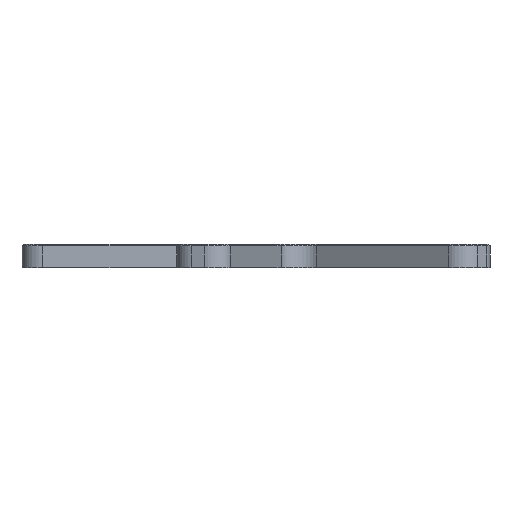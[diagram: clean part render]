
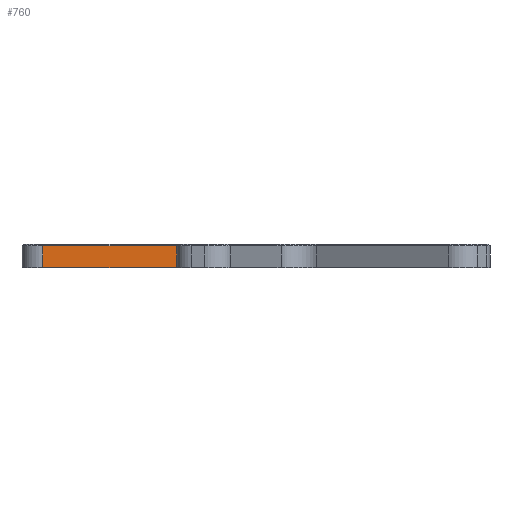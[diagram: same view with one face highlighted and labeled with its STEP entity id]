
A CAD part, left-side view. The second image highlights one B-rep face of the part: STEP entity #760.
In plain terms, the highlighted planar face has unit normal (-1, 0, 0).
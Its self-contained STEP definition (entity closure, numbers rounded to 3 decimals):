
#551 = DIRECTION ( 'NONE',  ( 1., 0., 0. ) ) ;
#607 = DIRECTION ( 'NONE',  ( 0., 0., -1. ) ) ;
#619 = CARTESIAN_POINT ( 'NONE',  ( -12., 101., 10. ) ) ;
#624 = VECTOR ( 'NONE', #8220, 1000. ) ;
#658 = ORIENTED_EDGE ( 'NONE', *, *, #8106, .T. ) ;
#760 = ADVANCED_FACE ( 'NONE', ( #3482 ), #9577, .F. ) ;
#1236 = CARTESIAN_POINT ( 'NONE',  ( -12., 101., 9.5 ) ) ;
#1275 = AXIS2_PLACEMENT_3D ( 'NONE', #619, #551, #607 ) ;
#1615 = ORIENTED_EDGE ( 'NONE', *, *, #7872, .T. ) ;
#1783 = ORIENTED_EDGE ( 'NONE', *, *, #5308, .T. ) ;
#1856 = DIRECTION ( 'NONE',  ( 0., 1., 0. ) ) ;
#2363 = CARTESIAN_POINT ( 'NONE',  ( -12., 101., 0. ) ) ;
#2633 = VERTEX_POINT ( 'NONE', #4049 ) ;
#3159 = EDGE_CURVE ( 'NONE', #2633, #7239, #9100, .T. ) ;
#3206 = CARTESIAN_POINT ( 'NONE',  ( -12., 101., 9.5 ) ) ;
#3256 = EDGE_LOOP ( 'NONE', ( #7805, #1783, #658, #1615 ) ) ;
#3482 = FACE_OUTER_BOUND ( 'NONE', #3256, .T. ) ;
#4049 = CARTESIAN_POINT ( 'NONE',  ( -12., 30.28, 9.5 ) ) ;
#4188 = LINE ( 'NONE', #8244, #624 ) ;
#4252 = VECTOR ( 'NONE', #6429, 1000. ) ;
#5308 = EDGE_CURVE ( 'NONE', #2633, #8815, #8052, .T. ) ;
#6388 = VERTEX_POINT ( 'NONE', #2363 ) ;
#6429 = DIRECTION ( 'NONE',  ( 0., 0., -1. ) ) ;
#6897 = DIRECTION ( 'NONE',  ( 0., 0., -1. ) ) ;
#7041 = CARTESIAN_POINT ( 'NONE',  ( -12., 101., 10. ) ) ;
#7236 = CARTESIAN_POINT ( 'NONE',  ( -12., 30.28, 10. ) ) ;
#7239 = VERTEX_POINT ( 'NONE', #8503 ) ;
#7805 = ORIENTED_EDGE ( 'NONE', *, *, #3159, .F. ) ;
#7872 = EDGE_CURVE ( 'NONE', #6388, #7239, #4188, .T. ) ;
#7896 = VECTOR ( 'NONE', #6897, 1000. ) ;
#8052 = LINE ( 'NONE', #1236, #8135 ) ;
#8106 = EDGE_CURVE ( 'NONE', #8815, #6388, #9121, .T. ) ;
#8135 = VECTOR ( 'NONE', #1856, 1000. ) ;
#8220 = DIRECTION ( 'NONE',  ( 0., -1., 0. ) ) ;
#8244 = CARTESIAN_POINT ( 'NONE',  ( -12., 101., 0. ) ) ;
#8503 = CARTESIAN_POINT ( 'NONE',  ( -12., 30.28, 0. ) ) ;
#8815 = VERTEX_POINT ( 'NONE', #3206 ) ;
#9100 = LINE ( 'NONE', #7236, #4252 ) ;
#9121 = LINE ( 'NONE', #7041, #7896 ) ;
#9577 = PLANE ( 'NONE',  #1275 ) ;
